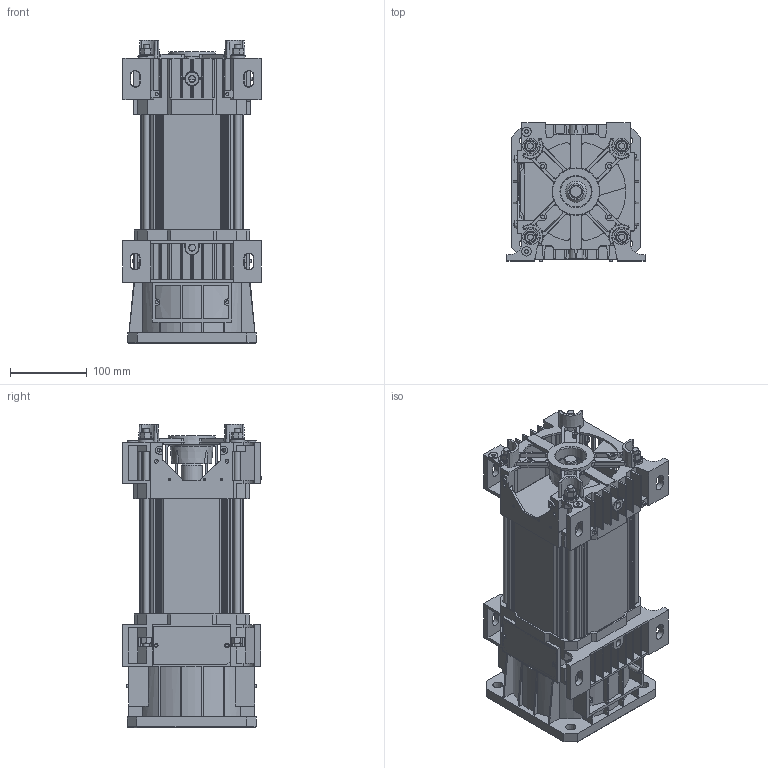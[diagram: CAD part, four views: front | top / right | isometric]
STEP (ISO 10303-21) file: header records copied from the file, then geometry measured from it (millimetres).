
FILE_DESCRIPTION(/* description */ ('Motore Tipo V34 Fl.155 F19-H160 SI Volano NO Piedi'),/* implementation_level */ '2;1');
FILE_NAME(/* name */ 'Y:\ServerTecnico\Mockup Motori x Sito Elmo\Mockup Tipo V34 Size 3 FL155 F19-H160 SI Volano.stp',/* time_stamp */ '2016-10-06T10:12:21+02:00',/* author */ ('aparmini'),/* organization */ (''),/* preprocessor_version */ 'ST-DEVELOPER v16.5',/* originating_system */ 'Autodesk Inventor 2017',/* authorisation */ '');
FILE_SCHEMA (('AUTOMOTIVE_DESIGN { 1 0 10303 214 3 1 1 }'));
Length unit declared in the file: millimetre
Products named in the file (8): Mockup Tipo V34 Size 3 FL155 F19-H160 SI Volano; Mockup CP3XD040N; Mockup CA3VD155N; Mockup Statore Size 3 - F19-H160 SI Volano; TGS10; TI08ML285; UNI 5587 - M8; DIN 125-2 - B 8,4
Assembly tree (20 placements, depth 2):
  Mockup Tipo V34 Size 3 FL155 F19-H160 SI Volano
    Mockup CP3XD040N
    Mockup CA3VD155N
    Mockup Statore Size 3 - F19-H160 SI Volano
    TGS10
    UNI 5587 - M8  x8
    TI08ML285  x4
    DIN 125-2 - B 8,4  x4
Bounding box: 180 x 181 x 395 mm (x, y, z)
Volume: 4438310.2 mm3; surface area: 694009.2 mm2
Topology: 20 solids, 20 shells, 1820 faces, 5042 edges, 3288 vertices
Faces by surface type: plane 1062, cone 379, cylinder 331, bspline 38, torus 10
Full cylindrical faces by diameter (mm): 3.2 x3, 4 x12, 4.917 x4, 5 x2, 6.647 x8, 8 x4, 8.4 x4, 12 x2, 16 x4, 17 x1, 19 x1, 20 x4, 21 x1, 27.5 x1, 31 x1, 32 x1, 35 x1, 40 x2, 40.1 x1, 42.5 x1, 46 x1, 72 x1, 145 x1, 153 x1
Entity records: 54709 total; most frequent: CARTESIAN_POINT 11166, ORIENTED_EDGE 9094, DIRECTION 9088, EDGE_CURVE 4547, AXIS2_PLACEMENT_3D 3088, VERTEX_POINT 3046, LINE 2912, VECTOR 2912
